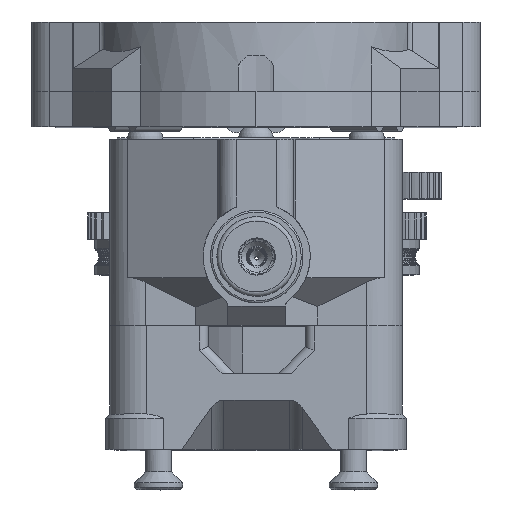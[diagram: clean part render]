
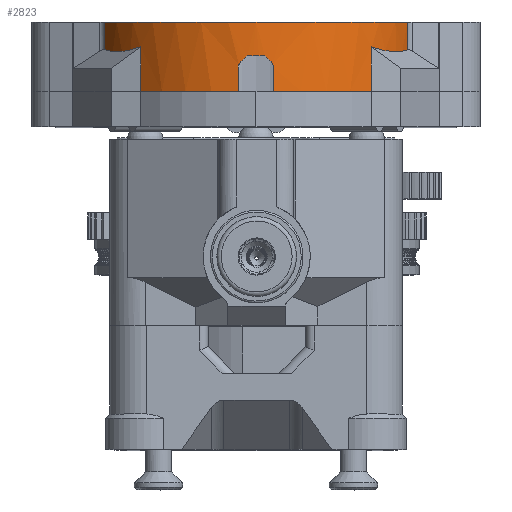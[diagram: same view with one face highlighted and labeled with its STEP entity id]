
A CAD part, top view. The second image highlights one B-rep face of the part: STEP entity #2823.
In plain terms, the highlighted cylindrical face has radius 18.25 mm (diameter 36.5 mm), a partial arc.
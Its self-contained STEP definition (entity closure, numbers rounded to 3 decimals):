
#807=CARTESIAN_POINT('',(-282.692,8.84,69.762));
#808=VERTEX_POINT('',#807);
#815=CARTESIAN_POINT('',(-293.694,8.84,75.095));
#816=VERTEX_POINT('',#815);
#817=CARTESIAN_POINT('',(-295.694,8.84,56.955));
#818=DIRECTION('',(-0.,1.,-0.));
#819=DIRECTION('',(0.,0.,1.));
#820=AXIS2_PLACEMENT_3D('',#817,#818,#819);
#821=CIRCLE('',#820,18.25);
#822=EDGE_CURVE('',#816,#808,#821,.T.);
#850=CARTESIAN_POINT('',(-297.694,8.84,75.095));
#851=VERTEX_POINT('',#850);
#858=CARTESIAN_POINT('',(-308.696,8.84,69.762));
#859=VERTEX_POINT('',#858);
#860=CARTESIAN_POINT('',(-295.694,8.84,56.955));
#861=DIRECTION('',(-0.,1.,-0.));
#862=DIRECTION('',(0.,0.,1.));
#863=AXIS2_PLACEMENT_3D('',#860,#861,#862);
#864=CIRCLE('',#863,18.25);
#865=EDGE_CURVE('',#859,#851,#864,.T.);
#1429=CARTESIAN_POINT('',(-312.79,16.64,63.34));
#1430=VERTEX_POINT('',#1429);
#1438=CARTESIAN_POINT('',(-278.597,16.64,63.34));
#1439=VERTEX_POINT('',#1438);
#1440=CARTESIAN_POINT('',(-295.694,16.64,56.955));
#1441=DIRECTION('',(0.,1.,-0.));
#1442=DIRECTION('',(0.,0.,1.));
#1443=AXIS2_PLACEMENT_3D('',#1440,#1441,#1442);
#1444=CIRCLE('',#1443,18.25);
#1445=EDGE_CURVE('',#1430,#1439,#1444,.T.);
#1867=CARTESIAN_POINT('',(-308.696,13.84,69.762));
#1868=VERTEX_POINT('',#1867);
#1885=CARTESIAN_POINT('',(-308.696,13.84,69.762));
#1886=DIRECTION('',(-0.,-1.,0.));
#1887=VECTOR('',#1886,5.);
#1888=LINE('',#1885,#1887);
#1889=EDGE_CURVE('',#1868,#859,#1888,.T.);
#2697=CARTESIAN_POINT('',(-295.694,14.84,56.955));
#2698=DIRECTION('',(-0.,-1.,0.));
#2699=DIRECTION('',(0.,-0.,-1.));
#2700=AXIS2_PLACEMENT_3D('',#2697,#2698,#2699);
#2701=CYLINDRICAL_SURFACE('',#2700,18.25);
#2702=CARTESIAN_POINT('',(-297.694,11.426,75.095));
#2703=VERTEX_POINT('',#2702);
#2704=CARTESIAN_POINT('',(-297.694,11.426,75.095));
#2705=DIRECTION('',(-0.,-1.,0.));
#2706=VECTOR('',#2705,2.586);
#2707=LINE('',#2704,#2706);
#2708=EDGE_CURVE('',#2703,#851,#2707,.T.);
#2709=ORIENTED_EDGE('',*,*,#2708,.F.);
#2710=CARTESIAN_POINT('',(-297.401,12.133,75.125));
#2711=VERTEX_POINT('',#2710);
#2712=CARTESIAN_POINT('',(-297.694,11.426,75.095));
#2713=CARTESIAN_POINT('',(-297.694,11.69,75.095));
#2714=CARTESIAN_POINT('',(-297.587,11.946,75.107));
#2715=CARTESIAN_POINT('',(-297.401,12.133,75.125));
#2716=B_SPLINE_CURVE_WITH_KNOTS('',3,(#2712,#2713,#2714,#2715),.UNSPECIFIED.,.F.,.F.,(4,4),(0.,0.001),.UNSPECIFIED.);
#2717=EDGE_CURVE('',#2703,#2711,#2716,.T.);
#2718=ORIENTED_EDGE('',*,*,#2717,.T.);
#2719=CARTESIAN_POINT('',(-296.694,12.84,75.178));
#2720=VERTEX_POINT('',#2719);
#2721=CARTESIAN_POINT('',(-295.694,13.84,56.955));
#2722=DIRECTION('',(-0.707,0.707,-0.));
#2723=DIRECTION('',(-0.707,-0.707,0.));
#2724=AXIS2_PLACEMENT_3D('',#2721,#2722,#2723);
#2725=ELLIPSE('',#2724,25.809,18.25);
#2726=EDGE_CURVE('',#2711,#2720,#2725,.T.);
#2727=ORIENTED_EDGE('',*,*,#2726,.T.);
#2728=CARTESIAN_POINT('',(-294.694,12.84,75.178));
#2729=VERTEX_POINT('',#2728);
#2730=CARTESIAN_POINT('',(-295.694,12.84,56.955));
#2731=DIRECTION('',(0.,1.,-0.));
#2732=DIRECTION('',(0.,-0.,-1.));
#2733=AXIS2_PLACEMENT_3D('',#2730,#2731,#2732);
#2734=CIRCLE('',#2733,18.25);
#2735=EDGE_CURVE('',#2720,#2729,#2734,.T.);
#2736=ORIENTED_EDGE('',*,*,#2735,.T.);
#2737=CARTESIAN_POINT('',(-293.987,12.133,75.125));
#2738=VERTEX_POINT('',#2737);
#2739=CARTESIAN_POINT('',(-295.694,13.84,56.955));
#2740=DIRECTION('',(0.707,0.707,-0.));
#2741=DIRECTION('',(0.707,-0.707,0.));
#2742=AXIS2_PLACEMENT_3D('',#2739,#2740,#2741);
#2743=ELLIPSE('',#2742,25.809,18.25);
#2744=EDGE_CURVE('',#2729,#2738,#2743,.T.);
#2745=ORIENTED_EDGE('',*,*,#2744,.T.);
#2746=CARTESIAN_POINT('',(-293.694,11.426,75.095));
#2747=VERTEX_POINT('',#2746);
#2748=CARTESIAN_POINT('',(-293.987,12.133,75.125));
#2749=CARTESIAN_POINT('',(-293.8,11.946,75.107));
#2750=CARTESIAN_POINT('',(-293.694,11.69,75.095));
#2751=CARTESIAN_POINT('',(-293.694,11.426,75.095));
#2752=B_SPLINE_CURVE_WITH_KNOTS('',3,(#2748,#2749,#2750,#2751),.UNSPECIFIED.,.F.,.F.,(4,4),(0.,0.001),.UNSPECIFIED.);
#2753=EDGE_CURVE('',#2738,#2747,#2752,.T.);
#2754=ORIENTED_EDGE('',*,*,#2753,.T.);
#2755=CARTESIAN_POINT('',(-293.694,11.426,75.095));
#2756=DIRECTION('',(-0.,-1.,0.));
#2757=VECTOR('',#2756,2.586);
#2758=LINE('',#2755,#2757);
#2759=EDGE_CURVE('',#2747,#816,#2758,.T.);
#2760=ORIENTED_EDGE('',*,*,#2759,.T.);
#2761=ORIENTED_EDGE('',*,*,#822,.T.);
#2762=CARTESIAN_POINT('',(-282.692,13.84,69.762));
#2763=VERTEX_POINT('',#2762);
#2764=CARTESIAN_POINT('',(-282.692,13.84,69.762));
#2765=DIRECTION('',(-0.,-1.,0.));
#2766=VECTOR('',#2765,5.);
#2767=LINE('',#2764,#2766);
#2768=EDGE_CURVE('',#2763,#808,#2767,.T.);
#2769=ORIENTED_EDGE('',*,*,#2768,.F.);
#2770=CARTESIAN_POINT('',(-282.604,13.84,69.672));
#2771=VERTEX_POINT('',#2770);
#2772=CARTESIAN_POINT('',(-295.694,13.84,56.955));
#2773=DIRECTION('',(0.,1.,-0.));
#2774=DIRECTION('',(0.,0.,1.));
#2775=AXIS2_PLACEMENT_3D('',#2772,#2773,#2774);
#2776=CIRCLE('',#2775,18.25);
#2777=EDGE_CURVE('',#2763,#2771,#2776,.T.);
#2778=ORIENTED_EDGE('',*,*,#2777,.T.);
#2779=CARTESIAN_POINT('',(-278.597,13.536,63.34));
#2780=VERTEX_POINT('',#2779);
#2781=CARTESIAN_POINT('',(-295.694,31.534,56.955));
#2782=DIRECTION('',(0.612,0.707,0.354));
#2783=DIRECTION('',(0.612,-0.707,0.354));
#2784=AXIS2_PLACEMENT_3D('',#2781,#2782,#2783);
#2785=ELLIPSE('',#2784,25.809,18.25);
#2786=EDGE_CURVE('',#2771,#2780,#2785,.T.);
#2787=ORIENTED_EDGE('',*,*,#2786,.T.);
#2788=CARTESIAN_POINT('',(-278.597,13.536,63.34));
#2789=DIRECTION('',(0.,1.,-0.));
#2790=VECTOR('',#2789,3.104);
#2791=LINE('',#2788,#2790);
#2792=EDGE_CURVE('',#2780,#1439,#2791,.T.);
#2793=ORIENTED_EDGE('',*,*,#2792,.T.);
#2794=ORIENTED_EDGE('',*,*,#1445,.F.);
#2795=CARTESIAN_POINT('',(-312.79,13.536,63.34));
#2796=VERTEX_POINT('',#2795);
#2797=CARTESIAN_POINT('',(-312.79,13.536,63.34));
#2798=DIRECTION('',(0.,1.,-0.));
#2799=VECTOR('',#2798,3.104);
#2800=LINE('',#2797,#2799);
#2801=EDGE_CURVE('',#2796,#1430,#2800,.T.);
#2802=ORIENTED_EDGE('',*,*,#2801,.F.);
#2803=CARTESIAN_POINT('',(-308.784,13.84,69.672));
#2804=VERTEX_POINT('',#2803);
#2805=CARTESIAN_POINT('',(-295.694,31.534,56.955));
#2806=DIRECTION('',(-0.612,0.707,0.354));
#2807=DIRECTION('',(-0.612,-0.707,0.354));
#2808=AXIS2_PLACEMENT_3D('',#2805,#2806,#2807);
#2809=ELLIPSE('',#2808,25.809,18.25);
#2810=EDGE_CURVE('',#2796,#2804,#2809,.T.);
#2811=ORIENTED_EDGE('',*,*,#2810,.T.);
#2812=CARTESIAN_POINT('',(-295.694,13.84,56.955));
#2813=DIRECTION('',(0.,1.,-0.));
#2814=DIRECTION('',(0.,0.,1.));
#2815=AXIS2_PLACEMENT_3D('',#2812,#2813,#2814);
#2816=CIRCLE('',#2815,18.25);
#2817=EDGE_CURVE('',#2804,#1868,#2816,.T.);
#2818=ORIENTED_EDGE('',*,*,#2817,.T.);
#2819=ORIENTED_EDGE('',*,*,#1889,.T.);
#2820=ORIENTED_EDGE('',*,*,#865,.T.);
#2821=EDGE_LOOP('',(#2709,#2718,#2727,#2736,#2745,#2754,#2760,#2761,#2769,#2778,#2787,#2793,#2794,#2802,#2811,#2818,#2819,#2820));
#2822=FACE_BOUND('',#2821,.T.);
#2823=ADVANCED_FACE('',(#2822),#2701,.T.);
